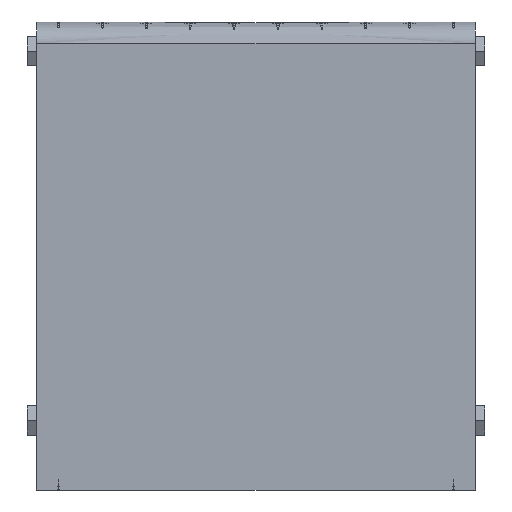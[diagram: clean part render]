
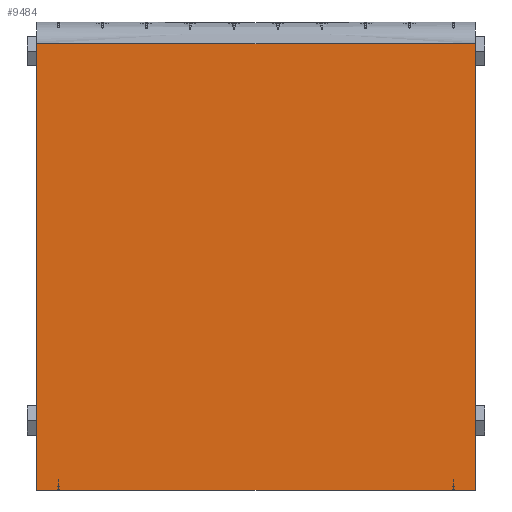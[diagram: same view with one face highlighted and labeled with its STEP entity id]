
A CAD part, front view. The second image highlights one B-rep face of the part: STEP entity #9484.
In plain terms, the highlighted planar face has unit normal (0, -1, 0).
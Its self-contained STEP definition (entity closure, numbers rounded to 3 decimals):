
#1430=FACE_OUTER_BOUND('',#2033,.T.);
#2033=EDGE_LOOP('',(#6000,#6001,#6002,#6003));
#2659=LINE('',#14375,#3228);
#2664=LINE('',#14386,#3233);
#2666=LINE('',#14429,#3235);
#2667=LINE('',#14431,#3236);
#3228=VECTOR('',#11339,304.8);
#3233=VECTOR('',#11346,304.8);
#3235=VECTOR('',#11350,304.8);
#3236=VECTOR('',#11353,304.8);
#3800=VERTEX_POINT('',#14372);
#3801=VERTEX_POINT('',#14374);
#3805=VERTEX_POINT('',#14383);
#3806=VERTEX_POINT('',#14385);
#4618=EDGE_CURVE('',#3800,#3801,#2659,.T.);
#4623=EDGE_CURVE('',#3805,#3806,#2664,.T.);
#4626=EDGE_CURVE('',#3806,#3800,#2666,.T.);
#4627=EDGE_CURVE('',#3805,#3801,#2667,.T.);
#6000=ORIENTED_EDGE('',*,*,#4618,.F.);
#6001=ORIENTED_EDGE('',*,*,#4626,.F.);
#6002=ORIENTED_EDGE('',*,*,#4623,.F.);
#6003=ORIENTED_EDGE('',*,*,#4627,.T.);
#8732=PLANE('',#10103);
#9484=ADVANCED_FACE('',(#1430),#8732,.T.);
#10103=AXIS2_PLACEMENT_3D('',#14430,#11351,#11352);
#11339=DIRECTION('',(0.,0.,-1.));
#11346=DIRECTION('',(0.,0.,1.));
#11350=DIRECTION('',(1.,0.,0.));
#11351=DIRECTION('center_axis',(0.,-1.,0.));
#11352=DIRECTION('ref_axis',(-1.,0.,0.));
#11353=DIRECTION('',(1.,0.,0.));
#14372=CARTESIAN_POINT('',(300.,-122.,610.));
#14374=CARTESIAN_POINT('',(300.,-122.,0.));
#14375=CARTESIAN_POINT('',(300.,-122.,610.));
#14383=CARTESIAN_POINT('',(-300.,-122.,0.));
#14385=CARTESIAN_POINT('',(-300.,-122.,610.));
#14386=CARTESIAN_POINT('',(-300.,-122.,0.));
#14429=CARTESIAN_POINT('',(300.,-122.,610.));
#14430=CARTESIAN_POINT('Origin',(300.,-122.,610.));
#14431=CARTESIAN_POINT('',(300.,-122.,0.));
